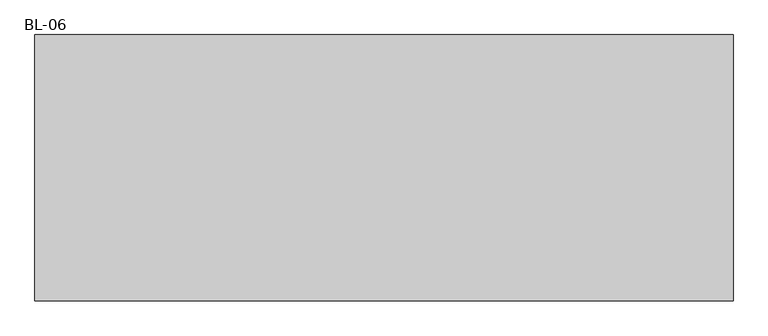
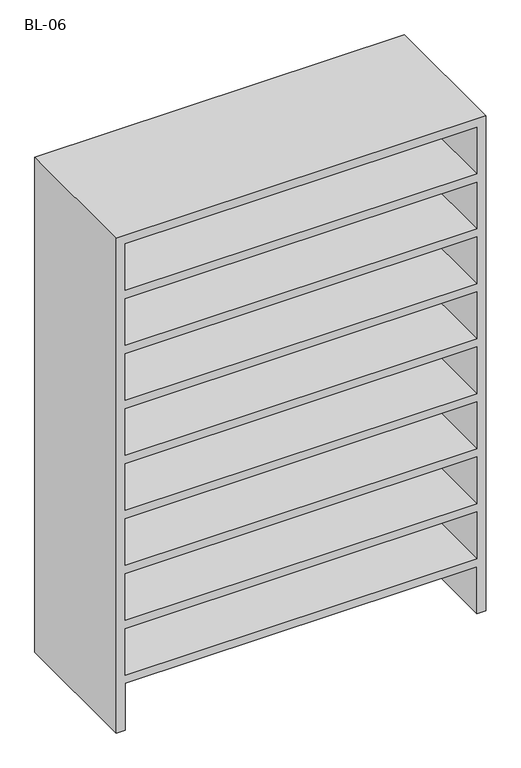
"""IFC4 building model written with IfcOpenShell, lengths in millimetres: furniture geometry, 8 ESTANTES-BLANCOS : BL-06."""

from ifc_helpers import new_model, si_unit, frame, origin, place, context, project, spatial, polyline, outline, extrude, source, transform, mapped, element, save


def bl_06_acdd1031(model_context):
    return source(origin(), model_context, "Body", "SweptSolid", [
        extrude(outline(polyline([(0.0, -636.0697951), (0.0, -600.0697951), (202.8888889, -600.0697951), (202.8888889, 847.9302049), (0.0, 847.9302049), (0.0, 883.9302049), (2150.0, 883.9302049), (2150.0, -636.0697951), (0.0, -636.0697951)]), holes=[polyline([(1397.3333333, 847.9302049), (1194.4444444, 847.9302049), (1194.4444444, -600.0697951), (1397.3333333, -600.0697951), (1397.3333333, 847.9302049)]), polyline([(716.6666667, -600.0697951), (919.5555556, -600.0697951), (919.5555556, 847.9302049), (716.6666667, 847.9302049), (716.6666667, -600.0697951)]), polyline([(477.7777778, -600.0697951), (680.6666667, -600.0697951), (680.6666667, 847.9302049), (477.7777778, 847.9302049), (477.7777778, -600.0697951)]), polyline([(238.8888889, -600.0697951), (441.7777778, -600.0697951), (441.7777778, 847.9302049), (238.8888889, 847.9302049), (238.8888889, -600.0697951)]), polyline([(955.5555556, 847.9302049), (955.5555556, -600.0697951), (1158.4444444, -600.0697951), (1158.4444444, 847.9302049), (955.5555556, 847.9302049)]), polyline([(1911.1111111, -600.0697951), (2114.0, -600.0697951), (2114.0, 847.9302049), (1911.1111111, 847.9302049), (1911.1111111, -600.0697951)]), polyline([(1433.3333333, 847.9302049), (1433.3333333, -600.0697951), (1636.2222222, -600.0697951), (1636.2222222, 847.9302049), (1433.3333333, 847.9302049)]), polyline([(1875.1111111, -600.0697951), (1875.1111111, 847.9302049), (1672.2222222, 847.9302049), (1672.2222222, -600.0697951), (1875.1111111, -600.0697951)])]), frame((0.0, 100.0, 0.0), z_axis=(0.0, 1.0, 0.0), x_axis=(0.0, 0.0, 1.0)), (0.0, 0.0, 1.0), 580.0),
    ])


if __name__ == "__main__":
    model = new_model("IFC4")
    model_context = context("Model", 3, world=origin())
    ifc_project = project(units=[si_unit("LENGTHUNIT", "METRE", prefix="MILLI")], contexts=[model_context])
    site = spatial("IfcSite", under=ifc_project)
    building = spatial("IfcBuilding", under=site)
    placement = place(None, origin())
    bl_06_shape = bl_06_acdd1031(model_context)
    element("IfcFurniture", 1, ObjectType="8 ESTANTES-BLANCOS : BL-06", at=placement, inside=building, context=model_context, shape_type="MappedRepresentation", body=[
        mapped(bl_06_shape, transform((0.0, 0.0, 0.0), x_axis=(1.0, 0.0, 0.0), y_axis=(0.0, 1.0, 0.0), z_axis=(0.0, 0.0, 1.0))),
    ])
    save(model, "model.ifc")
